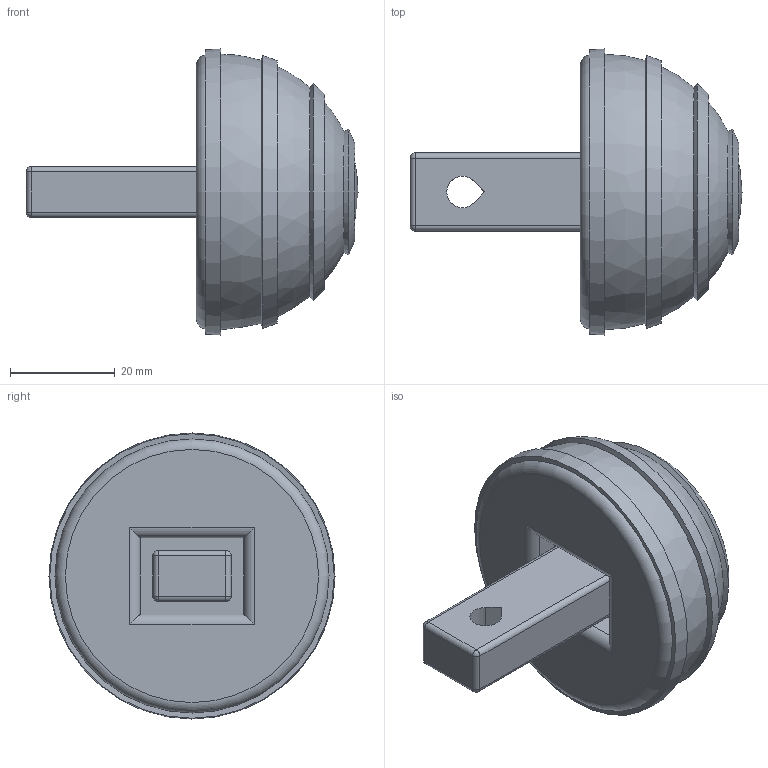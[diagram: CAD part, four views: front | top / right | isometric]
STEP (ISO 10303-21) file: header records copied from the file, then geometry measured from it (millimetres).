
FILE_DESCRIPTION(/* description */ ('STEP AP242 Edition 2','CAx-IF Rec.Pracs.---Representation and Presentation of Product Manufacturing Information (PMI)---4.0---2014-10-13','CAx-IF Rec.Pracs.---3D Tessellated Geometry---0.4---2014-09-14','2;1','CAx-IF Rec.Pracs.---User Defined Attributes---1.5---2016-08-15'),/* implementation_level */ '2;1');
FILE_NAME(/* name */ 'Tarok - Total Assemply - Foot',/* time_stamp */ '2026-05-23T09:32:38Z',/* author */ (''),/* organization */ (''),/* preprocessor_version */ 'ST-DEVELOPER v20',/* originating_system */ 'ONSHAPE BY PTC INC, 1.215',/* authorisation */ ' ');
FILE_SCHEMA (('AP242_MANAGED_MODEL_BASED_3D_ENGINEERING_MIM_LF { 1 0 10303 442 3 1 4 }'));
Length unit declared in the file: metre
Products named in the file (1): Foot
Bounding box: 63.25 x 54.5 x 54.5 mm (x, y, z)
Volume: 52460.5 mm3; surface area: 10506.5 mm2
Topology: 1 solids, 1 shells, 47 faces, 105 edges, 57 vertices
Faces by surface type: plane 13, cylinder 13, cone 12, sphere 8, torus 1
Entity records: 1169 total; most frequent: DIRECTION 217, CARTESIAN_POINT 185, ORIENTED_EDGE 164, AXIS2_PLACEMENT_3D 87, EDGE_CURVE 82, EDGE_LOOP 67, FACE_BOUND 67, VERTEX_POINT 55
